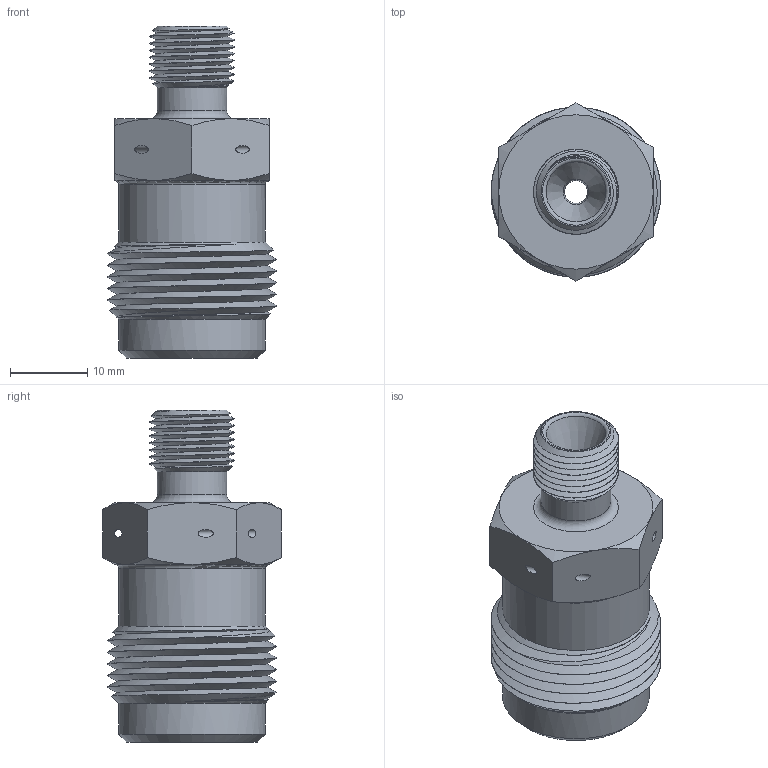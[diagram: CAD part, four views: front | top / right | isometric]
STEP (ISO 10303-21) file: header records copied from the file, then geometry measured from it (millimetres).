
FILE_DESCRIPTION(/* description */ ('CAx-IF Rec.Pracs.---Representation and Presentation of Product Manufacturing Information (PMI)---4.0---2014-10-13','CAx-IF Rec.Pracs.---3D Tessellated Geometry---0.4---2014-09-14','2;1'),/* implementation_level */ '2;1');
FILE_NAME(/* name */ 'czesc_gwintowana_SR',/* time_stamp */ '2020-03-20T17:36:14+01:00',/* author */ (''),/* organization */ (''),/* preprocessor_version */ 'ST-DEVELOPER v16.7',/* originating_system */ 'SIEMENS PLM Software NX 1847',/* authorisation */ $);
FILE_SCHEMA (('AP242_MANAGED_MODEL_BASED_3D_ENGINEERING_MIM_LF { 1 0 10303 442 1 1 4 }'));
Length unit declared in the file: millimetre
Products named in the file (1): czesc_gwintowana_SR
Bounding box: 22 x 23.09 x 43 mm (x, y, z)
Volume: 7040.3 mm3; surface area: 4930.2 mm2
Topology: 1 solids, 1 shells, 53 faces, 130 edges, 81 vertices
Faces by surface type: cone 22, cylinder 13, plane 10, bspline 4, torus 4
Full cylindrical faces by diameter (mm): 1 x3, 3 x1, 9 x1, 12 x1, 15 x1, 19 x2
Entity records: 3038 total; most frequent: CARTESIAN_POINT 1935, DIRECTION 208, ORIENTED_EDGE 182, AXIS2_PLACEMENT_3D 109, EDGE_CURVE 91, EDGE_LOOP 82, FACE_BOUND 82, VERTEX_POINT 65
